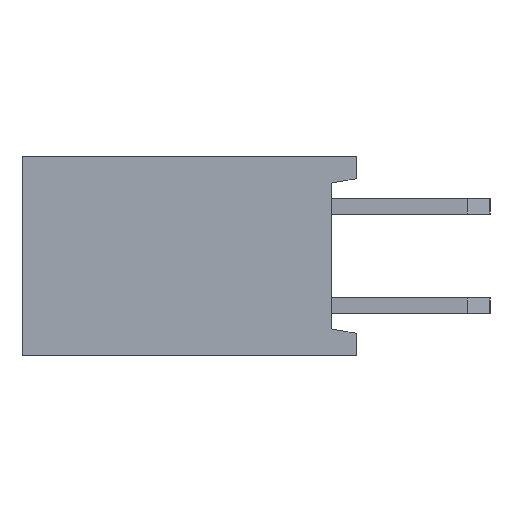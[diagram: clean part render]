
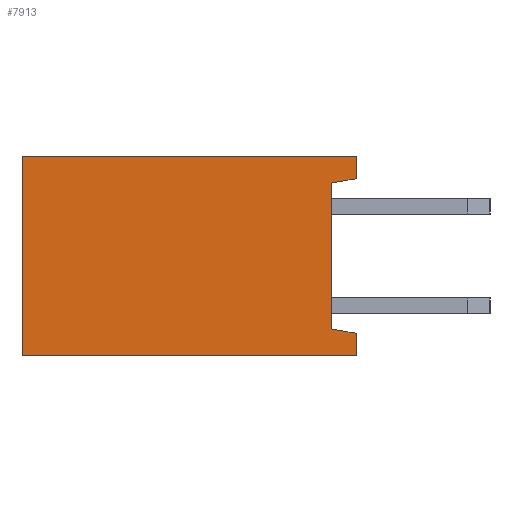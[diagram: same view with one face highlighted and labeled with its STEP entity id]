
A CAD part, left-side view. The second image highlights one B-rep face of the part: STEP entity #7913.
In plain terms, the highlighted planar face has unit normal (-1, 0, 0).
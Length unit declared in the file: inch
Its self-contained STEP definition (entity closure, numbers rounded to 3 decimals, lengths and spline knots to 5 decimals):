
#43 = CARTESIAN_POINT ( 'NONE',  ( -1.66, 0., 0.1 ) ) ;
#276 = VERTEX_POINT ( 'NONE', #7489 ) ;
#711 = FACE_OUTER_BOUND ( 'NONE', #16681, .T. ) ;
#714 = DIRECTION ( 'NONE',  ( 0., 0.985, 0.174 ) ) ;
#998 = DIRECTION ( 'NONE',  ( 0., 0., 1. ) ) ;
#1474 = DIRECTION ( 'NONE',  ( 0., 0., 1. ) ) ;
#1985 = CARTESIAN_POINT ( 'NONE',  ( -1.66, 0.025, 0.07309 ) ) ;
#2142 = VERTEX_POINT ( 'NONE', #10670 ) ;
#3027 = VERTEX_POINT ( 'NONE', #12532 ) ;
#3106 = DIRECTION ( 'NONE',  ( 0., 0., 1. ) ) ;
#3219 = CARTESIAN_POINT ( 'NONE',  ( -1.66, 0.025, 0.07309 ) ) ;
#3965 = CARTESIAN_POINT ( 'NONE',  ( -1.66, 0., -0.1 ) ) ;
#4357 = DIRECTION ( 'NONE',  ( 0., 1., 0. ) ) ;
#4404 = CARTESIAN_POINT ( 'NONE',  ( -1.66, -3.32602, 0.1 ) ) ;
#4450 = EDGE_CURVE ( 'NONE', #6677, #7422, #13613, .T. ) ;
#5743 = VERTEX_POINT ( 'NONE', #43 ) ;
#5756 = VECTOR ( 'NONE', #13916, 39.37008 ) ;
#6386 = AXIS2_PLACEMENT_3D ( 'NONE', #11650, #15847, #998 ) ;
#6677 = VERTEX_POINT ( 'NONE', #15486 ) ;
#6721 = VECTOR ( 'NONE', #1474, 39.37008 ) ;
#6904 = VECTOR ( 'NONE', #10746, 39.37008 ) ;
#7007 = LINE ( 'NONE', #12401, #13461 ) ;
#7422 = VERTEX_POINT ( 'NONE', #9424 ) ;
#7489 = CARTESIAN_POINT ( 'NONE',  ( -1.66, 0., -0.1 ) ) ;
#7913 = ADVANCED_FACE ( 'NONE', ( #711 ), #9222, .T. ) ;
#7928 = ORIENTED_EDGE ( 'NONE', *, *, #15674, .T. ) ;
#8269 = EDGE_CURVE ( 'NONE', #276, #6677, #7007, .T. ) ;
#8298 = EDGE_CURVE ( 'NONE', #13975, #2142, #15132, .T. ) ;
#8346 = ORIENTED_EDGE ( 'NONE', *, *, #12736, .F. ) ;
#8726 = DIRECTION ( 'NONE',  ( 0., 0., -1. ) ) ;
#8780 = CARTESIAN_POINT ( 'NONE',  ( -1.66, 0., -0.1 ) ) ;
#8784 = CARTESIAN_POINT ( 'NONE',  ( -1.66, 0.025, -0.07309 ) ) ;
#9007 = ORIENTED_EDGE ( 'NONE', *, *, #4450, .F. ) ;
#9166 = LINE ( 'NONE', #3965, #6904 ) ;
#9222 = PLANE ( 'NONE',  #6386 ) ;
#9402 = VECTOR ( 'NONE', #714, 39.37008 ) ;
#9424 = CARTESIAN_POINT ( 'NONE',  ( -1.66, 0.335, 0.1 ) ) ;
#9733 = ORIENTED_EDGE ( 'NONE', *, *, #8269, .F. ) ;
#10670 = CARTESIAN_POINT ( 'NONE',  ( -1.66, 0., 0.0775 ) ) ;
#10746 = DIRECTION ( 'NONE',  ( 0., 0., -1. ) ) ;
#11059 = EDGE_CURVE ( 'NONE', #5743, #7422, #12853, .T. ) ;
#11312 = VECTOR ( 'NONE', #8726, 39.37008 ) ;
#11324 = ORIENTED_EDGE ( 'NONE', *, *, #13682, .F. ) ;
#11650 = CARTESIAN_POINT ( 'NONE',  ( -1.66, -3.32602, -0.1 ) ) ;
#11715 = LINE ( 'NONE', #15035, #9402 ) ;
#12391 = DIRECTION ( 'NONE',  ( 0., 1., 0. ) ) ;
#12401 = CARTESIAN_POINT ( 'NONE',  ( -1.66, -3.32602, -0.1 ) ) ;
#12532 = CARTESIAN_POINT ( 'NONE',  ( -1.66, 0., -0.0775 ) ) ;
#12564 = LINE ( 'NONE', #13468, #6721 ) ;
#12736 = EDGE_CURVE ( 'NONE', #3027, #276, #14455, .T. ) ;
#12853 = LINE ( 'NONE', #4404, #15361 ) ;
#13145 = EDGE_CURVE ( 'NONE', #15220, #13975, #12564, .T. ) ;
#13461 = VECTOR ( 'NONE', #4357, 39.37008 ) ;
#13468 = CARTESIAN_POINT ( 'NONE',  ( -1.66, 0.025, -0.07309 ) ) ;
#13613 = LINE ( 'NONE', #15199, #14634 ) ;
#13682 = EDGE_CURVE ( 'NONE', #5743, #2142, #9166, .T. ) ;
#13916 = DIRECTION ( 'NONE',  ( 0., -0.985, 0.174 ) ) ;
#13951 = ORIENTED_EDGE ( 'NONE', *, *, #8298, .T. ) ;
#13975 = VERTEX_POINT ( 'NONE', #1985 ) ;
#14455 = LINE ( 'NONE', #8780, #11312 ) ;
#14634 = VECTOR ( 'NONE', #3106, 39.37008 ) ;
#15035 = CARTESIAN_POINT ( 'NONE',  ( -1.66, 0., -0.0775 ) ) ;
#15132 = LINE ( 'NONE', #3219, #5756 ) ;
#15199 = CARTESIAN_POINT ( 'NONE',  ( -1.66, 0.335, -0.1 ) ) ;
#15220 = VERTEX_POINT ( 'NONE', #8784 ) ;
#15361 = VECTOR ( 'NONE', #12391, 39.37008 ) ;
#15486 = CARTESIAN_POINT ( 'NONE',  ( -1.66, 0.335, -0.1 ) ) ;
#15674 = EDGE_CURVE ( 'NONE', #3027, #15220, #11715, .T. ) ;
#15847 = DIRECTION ( 'NONE',  ( -1., 0., 0. ) ) ;
#16556 = ORIENTED_EDGE ( 'NONE', *, *, #13145, .T. ) ;
#16681 = EDGE_LOOP ( 'NONE', ( #16750, #9007, #9733, #8346, #7928, #16556, #13951, #11324 ) ) ;
#16750 = ORIENTED_EDGE ( 'NONE', *, *, #11059, .T. ) ;
